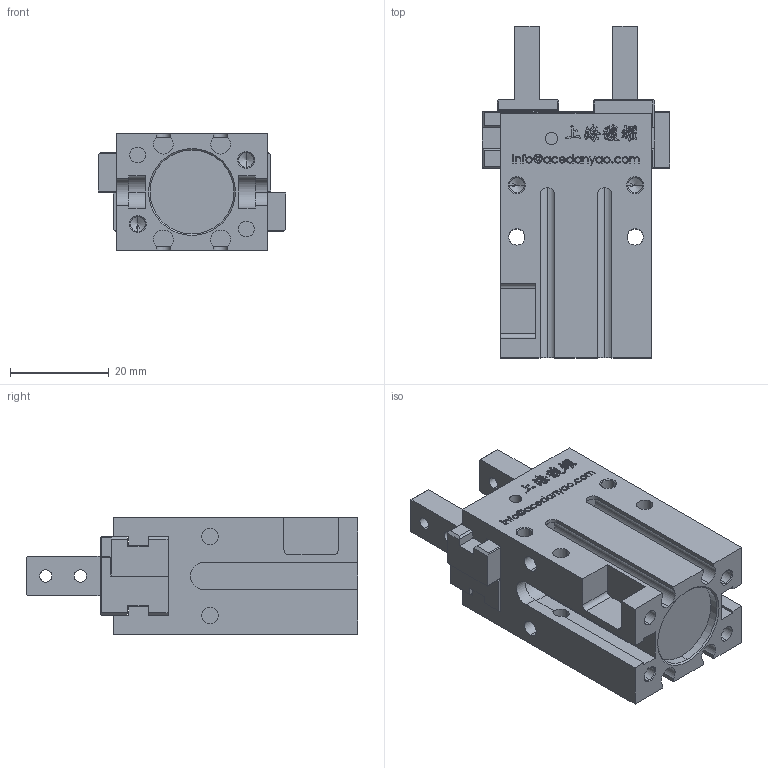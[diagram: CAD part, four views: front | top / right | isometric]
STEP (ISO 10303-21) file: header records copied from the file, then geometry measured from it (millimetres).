
FILE_DESCRIPTION (( 'STEP AP203' ), '1' );
FILE_NAME ('PEP-16-C2-VS-原始檔-組合-W106.04.20.STEP', '2017-04-20T02:10:51', ( 'DanyaoCAD' ), ( '' ), 'SwSTEP 2.0', 'SolidWorks 2016', '' );
FILE_SCHEMA (( 'CONFIG_CONTROL_DESIGN' ));
Length unit declared in the file: millimetre
Products named in the file (3): Griffa; Corpo; PEP-16-C2-VS-原始檔-組合-W106.04.20
Assembly tree (3 placements, depth 2):
  PEP-16-C2-VS-原始檔-組合-W106.04.20
    Griffa  x2
    Corpo
Bounding box: 38 x 67.3 x 23.6 mm (x, y, z)
Volume: 31590.8 mm3; surface area: 15157.7 mm2
Topology: 3 solids, 3 shells, 1026 faces, 2869 edges, 1890 vertices
Faces by surface type: bspline 640, plane 295, cylinder 69, cone 22
Entity records: 48010 total; most frequent: CARTESIAN_POINT 26673, ORIENTED_EDGE 5490, EDGE_CURVE 2745, DIRECTION 2317, VERTEX_POINT 1818, VECTOR 1313, LINE 1313, B_SPLINE_CURVE_WITH_KNOTS 1280
